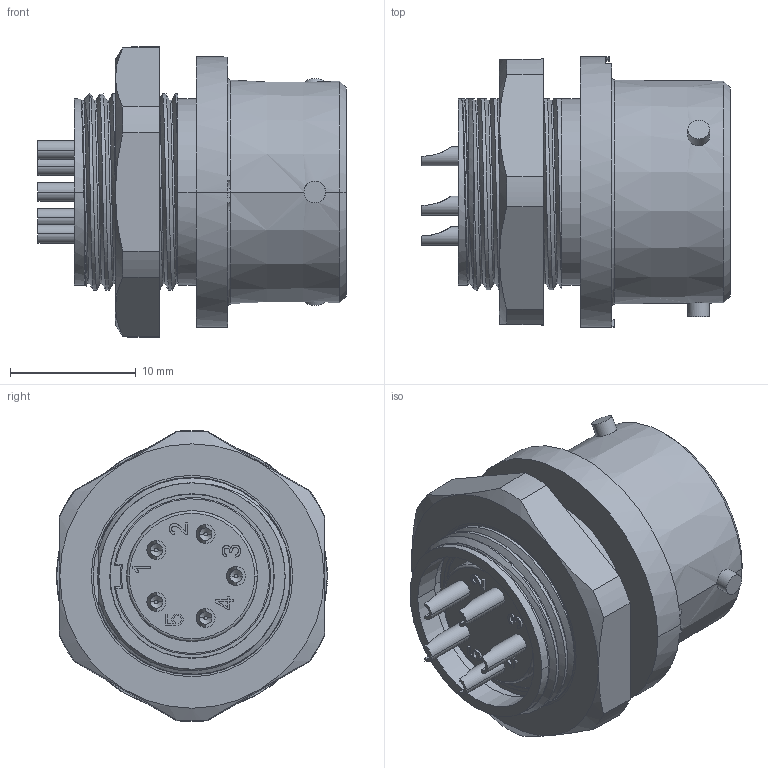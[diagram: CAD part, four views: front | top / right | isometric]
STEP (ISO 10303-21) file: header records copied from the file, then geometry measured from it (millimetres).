
FILE_DESCRIPTION((''),'2;1');
FILE_NAME('WY16J5ZM','2020-04-29T',('Administrator'),(''),'CREO PARAMETRIC BY PTC INC, 2016130','CREO PARAMETRIC BY PTC INC, 2016130','');
FILE_SCHEMA(('CONFIG_CONTROL_DESIGN'));
Length unit declared in the file: millimetre
Products named in the file (1): WY16J5ZM
Bounding box: 24.5 x 21.5 x 23.12 mm (x, y, z)
Volume: 3481.6 mm3; surface area: 4037.8 mm2
Topology: 1 solids, 3 shells, 464 faces, 1263 edges, 825 vertices
Faces by surface type: plane 226, extrusion 79, cylinder 76, cone 59, sphere 10, bspline 8, torus 6
Entity records: 18497 total; most frequent: CARTESIAN_POINT 7169, ORIENTED_EDGE 2502, DIRECTION 2026, EDGE_CURVE 1253, VERTEX_POINT 825, VECTOR 766, LINE 687, AXIS2_PLACEMENT_3D 630
